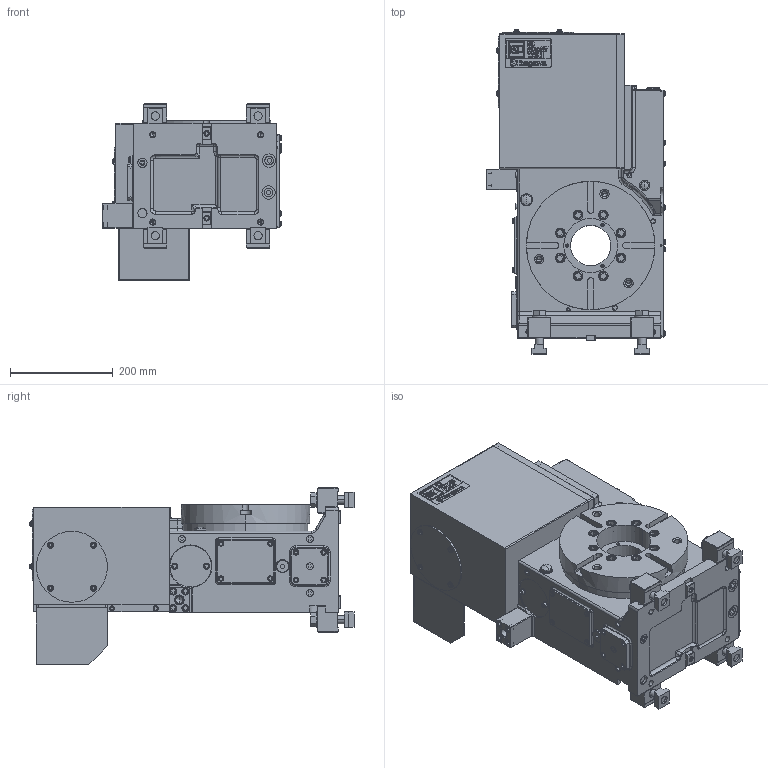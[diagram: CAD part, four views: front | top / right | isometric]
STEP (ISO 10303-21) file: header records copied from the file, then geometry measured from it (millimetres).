
FILE_DESCRIPTION (( 'STEP AP214' ), '1' );
FILE_NAME ('TUX250BF.STEP', '2020-03-28T01:45:01', ( '' ), ( '' ), 'SwSTEP 2.0', 'SolidWorks 2017', '' );
FILE_SCHEMA (( 'AUTOMOTIVE_DESIGN' ));
Length unit declared in the file: millimetre
Products named in the file (16): モータケース(TUX250BF); フランジ(TUX250BF); ガイドブロック(61M4197783); TUX250B01僋儈僞僥(61E112351); オイルゲージ 207; テーブル(61E8395700)TMX250B01; ƒzƒ“ƒ^ƒC‚`‚r‚r‚x(61E112349)TUX250B01; TUX250BF; CLAMPING PARTS(61E430226)結合; TUX250BFホンタイ; ブロック(61E4635820)TUX250BJ01; コネクタカバー（61E3639910）; コネクタプレート（61E4471133）MR200LAF04; キタガワシール; SMC KQ2E06-02; 僇僶乕丂俹(61E4458433)MR250RAM01
Assembly tree (20 placements, depth 4):
  TUX250BF
    TUX250BFホンタイ
      TUX250B01僋儈僞僥(61E112351)
        ƒzƒ“ƒ^ƒC‚`‚r‚r‚x(61E112349)TUX250B01
        テーブル(61E8395700)TMX250B01
        オイルゲージ 207
      ガイドブロック(61M4197783)  x2
      フランジ(TUX250BF)
      モータケース(TUX250BF)
      僇僶乕丂俹(61E4458433)MR250RAM01  x2
      SMC KQ2E06-02
      キタガワシール
      コネクタプレート（61E4471133）MR200LAF04
      コネクタカバー（61E3639910）
      ブロック(61E4635820)TUX250BJ01
    CLAMPING PARTS(61E430226)結合  x4
Bounding box: 346.9 x 630.7 x 344 mm (x, y, z)
Volume: 31094228.8 mm3; surface area: 1569193.2 mm2
Topology: 18 solids, 18 shells, 3607 faces, 9264 edges, 6006 vertices
Faces by surface type: plane 2509, cylinder 764, cone 186, torus 110, sphere 22, bspline 16
Entity records: 119177 total; most frequent: CARTESIAN_POINT 19350, ORIENTED_EDGE 17330, DIRECTION 17132, EDGE_CURVE 8665, VECTOR 6796, LINE 6796, VERTEX_POINT 5679, AXIS2_PLACEMENT_3D 5168
